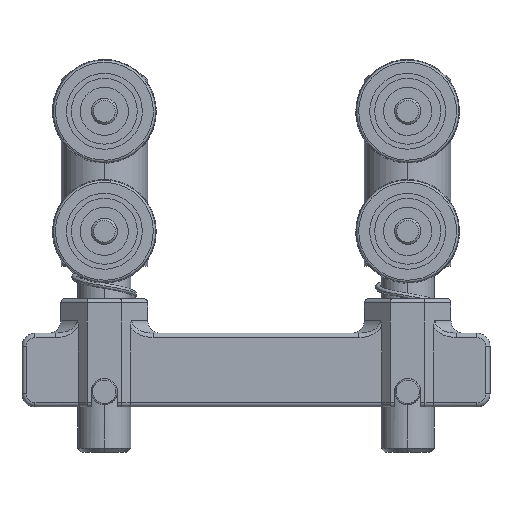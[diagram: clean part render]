
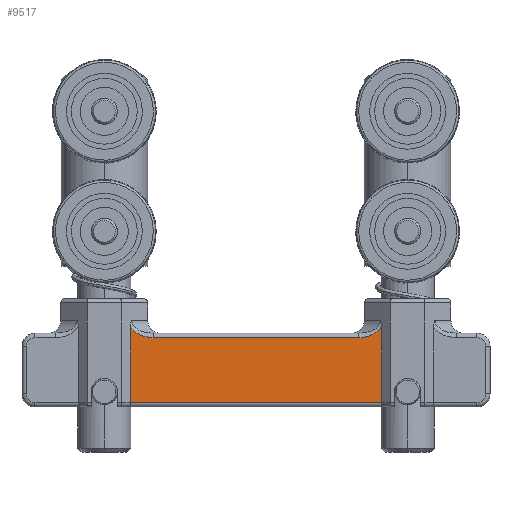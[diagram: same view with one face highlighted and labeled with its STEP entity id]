
A CAD part, top view. The second image highlights one B-rep face of the part: STEP entity #9517.
In plain terms, the highlighted planar face has unit normal (0, 0, 1).
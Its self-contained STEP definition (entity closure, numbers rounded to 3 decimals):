
#22 = EDGE_LOOP ( 'NONE', ( #11612, #11613, #11614, #11615, #11616, #11617 ) ) ;
#217 =( BOUNDED_CURVE ( )  B_SPLINE_CURVE ( 3, ( #3939, #3936, #3927, #3940 ),
 .UNSPECIFIED., .F., .F. ) 
 B_SPLINE_CURVE_WITH_KNOTS ( ( 4, 4 ),
 ( 3.527, 4.712 ),
 .UNSPECIFIED. ) 
 CURVE ( )  GEOMETRIC_REPRESENTATION_ITEM ( )  RATIONAL_B_SPLINE_CURVE ( ( 1., 0.886, 0.886, 1. ) ) 
 REPRESENTATION_ITEM ( '' )  );
#218 =( BOUNDED_CURVE ( )  B_SPLINE_CURVE ( 3, ( #3944, #3929, #3938, #3946 ),
 .UNSPECIFIED., .F., .F. ) 
 B_SPLINE_CURVE_WITH_KNOTS ( ( 4, 4 ),
 ( 4.712, 5.898 ),
 .UNSPECIFIED. ) 
 CURVE ( )  GEOMETRIC_REPRESENTATION_ITEM ( )  RATIONAL_B_SPLINE_CURVE ( ( 1., 0.886, 0.886, 1. ) ) 
 REPRESENTATION_ITEM ( '' )  );
#864 = FACE_OUTER_BOUND ( 'NONE', #22, .T. ) ;
#2192 = AXIS2_PLACEMENT_3D ( 'NONE', #2559, #2567, #2568 ) ;
#2559 = CARTESIAN_POINT ( 'NONE',  ( 29., 0., -2. ) ) ;
#2564 = PLANE ( 'NONE',  #2192 ) ;
#2567 = DIRECTION ( 'NONE',  ( 0., 0., -1. ) ) ;
#2568 = DIRECTION ( 'NONE',  ( -1., 0., 0. ) ) ;
#3372 = VECTOR ( 'NONE', #3942, 1000. ) ;
#3374 = LINE ( 'NONE', #3935, #3377 ) ;
#3376 = LINE ( 'NONE', #3941, #3372 ) ;
#3377 = VECTOR ( 'NONE', #3937, 1000. ) ;
#3378 = LINE ( 'NONE', #3947, #3379 ) ;
#3379 = VECTOR ( 'NONE', #3948, 1000. ) ;
#3381 = LINE ( 'NONE', #3949, #3383 ) ;
#3383 = VECTOR ( 'NONE', #3950, 1000. ) ;
#3927 = CARTESIAN_POINT ( 'NONE',  ( 80.135, 16., -2. ) ) ;
#3929 = CARTESIAN_POINT ( 'NONE',  ( 27.865, 16., -2. ) ) ;
#3935 = CARTESIAN_POINT ( 'NONE',  ( 83., 0., -2. ) ) ;
#3936 = CARTESIAN_POINT ( 'NONE',  ( 82.107, 16.939, -2. ) ) ;
#3937 = DIRECTION ( 'NONE',  ( 0., 1., 0. ) ) ;
#3938 = CARTESIAN_POINT ( 'NONE',  ( 25.893, 16.939, -2. ) ) ;
#3939 = CARTESIAN_POINT ( 'NONE',  ( 83., 18.498, -2. ) ) ;
#3940 = CARTESIAN_POINT ( 'NONE',  ( 77.757, 16., -2. ) ) ;
#3941 = CARTESIAN_POINT ( 'NONE',  ( 29.243, 16., -2. ) ) ;
#3942 = DIRECTION ( 'NONE',  ( -1., 0., 0. ) ) ;
#3944 = CARTESIAN_POINT ( 'NONE',  ( 30.243, 16., -2. ) ) ;
#3946 = CARTESIAN_POINT ( 'NONE',  ( 25., 18.498, -2. ) ) ;
#3947 = CARTESIAN_POINT ( 'NONE',  ( 25., 0., -2. ) ) ;
#3948 = DIRECTION ( 'NONE',  ( 0., -1., 0. ) ) ;
#3949 = CARTESIAN_POINT ( 'NONE',  ( 83., 1., -2. ) ) ;
#3950 = DIRECTION ( 'NONE',  ( 1., 0., 0. ) ) ;
#5698 = CARTESIAN_POINT ( 'NONE',  ( 83., 18.498, -2. ) ) ;
#5699 = CARTESIAN_POINT ( 'NONE',  ( 83., 1., -2. ) ) ;
#5706 = CARTESIAN_POINT ( 'NONE',  ( 77.757, 16., -2. ) ) ;
#5707 = CARTESIAN_POINT ( 'NONE',  ( 30.243, 16., -2. ) ) ;
#5708 = CARTESIAN_POINT ( 'NONE',  ( 25., 18.498, -2. ) ) ;
#5709 = CARTESIAN_POINT ( 'NONE',  ( 25., 1., -2. ) ) ;
#9517 = ADVANCED_FACE ( 'NONE', ( #864 ), #2564, .F. ) ;
#10467 = EDGE_CURVE ( 'NONE', #11822, #11821, #3374, .T. ) ;
#10468 = EDGE_CURVE ( 'NONE', #11821, #11829, #217, .T. ) ;
#10469 = EDGE_CURVE ( 'NONE', #11829, #11830, #3376, .T. ) ;
#10470 = EDGE_CURVE ( 'NONE', #11830, #11831, #218, .T. ) ;
#10471 = EDGE_CURVE ( 'NONE', #11831, #11832, #3378, .T. ) ;
#10472 = EDGE_CURVE ( 'NONE', #11832, #11822, #3381, .T. ) ;
#11612 = ORIENTED_EDGE ( 'NONE', *, *, #10467, .T. ) ;
#11613 = ORIENTED_EDGE ( 'NONE', *, *, #10468, .T. ) ;
#11614 = ORIENTED_EDGE ( 'NONE', *, *, #10469, .T. ) ;
#11615 = ORIENTED_EDGE ( 'NONE', *, *, #10470, .T. ) ;
#11616 = ORIENTED_EDGE ( 'NONE', *, *, #10471, .T. ) ;
#11617 = ORIENTED_EDGE ( 'NONE', *, *, #10472, .T. ) ;
#11821 = VERTEX_POINT ( 'NONE', #5698 ) ;
#11822 = VERTEX_POINT ( 'NONE', #5699 ) ;
#11829 = VERTEX_POINT ( 'NONE', #5706 ) ;
#11830 = VERTEX_POINT ( 'NONE', #5707 ) ;
#11831 = VERTEX_POINT ( 'NONE', #5708 ) ;
#11832 = VERTEX_POINT ( 'NONE', #5709 ) ;
